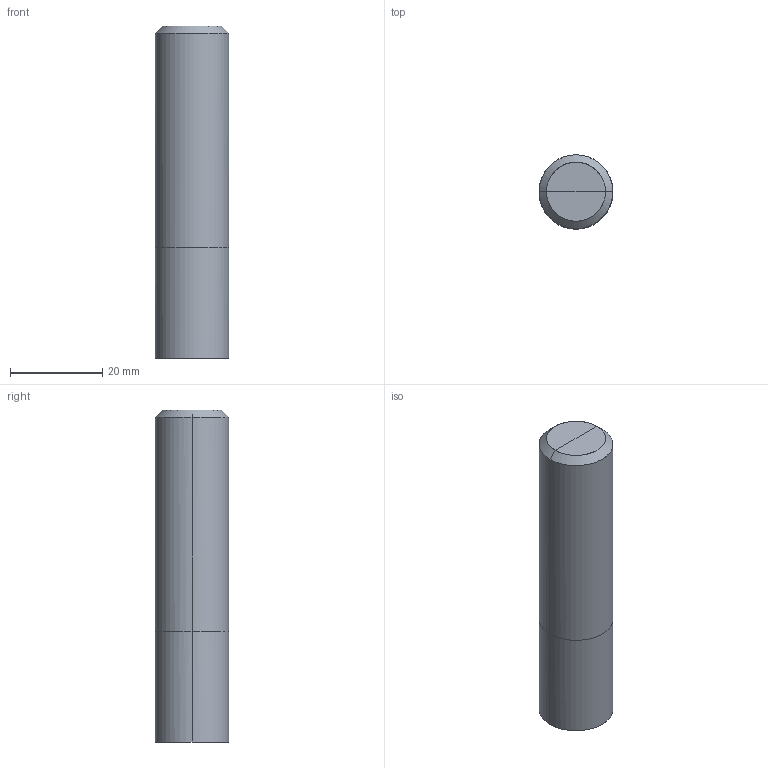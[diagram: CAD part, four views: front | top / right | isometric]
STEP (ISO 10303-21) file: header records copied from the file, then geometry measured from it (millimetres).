
FILE_DESCRIPTION(/* description */ (''),/* implementation_level */ '2;1');
FILE_NAME(/*name*/ '5031-16F',/*time_stamp*/'2021-4-28T11:32:18',/*author*/ ('ISBE GmbH'),/*organization*/ ('ISBE GmbH'),/*preprocessor_version*/ 'STEP IO v1.0',/*originating_system*/ '',/*authorisation*/ '');
FILE_SCHEMA (('AUTOMOTIVE_DESIGN'));
Length unit declared in the file: millimetre
Products named in the file (1): Document
Bounding box: 16 x 15.97 x 72 mm (x, y, z)
Surface area: 4379.1 mm2 (no closed solid volume)
Topology: 0 solids, 14 shells, 14 faces, 61 edges, 58 vertices
Faces by surface type: bspline 14
Entity records: 1773 total; most frequent: CARTESIAN_POINT 1496, VERTEX_POINT 48, EDGE_CURVE 48, ORIENTED_EDGE 48, DIRECTION 16, EDGE_LOOP 14, FACE_OUTER_BOUND 14, ADVANCED_FACE 14
